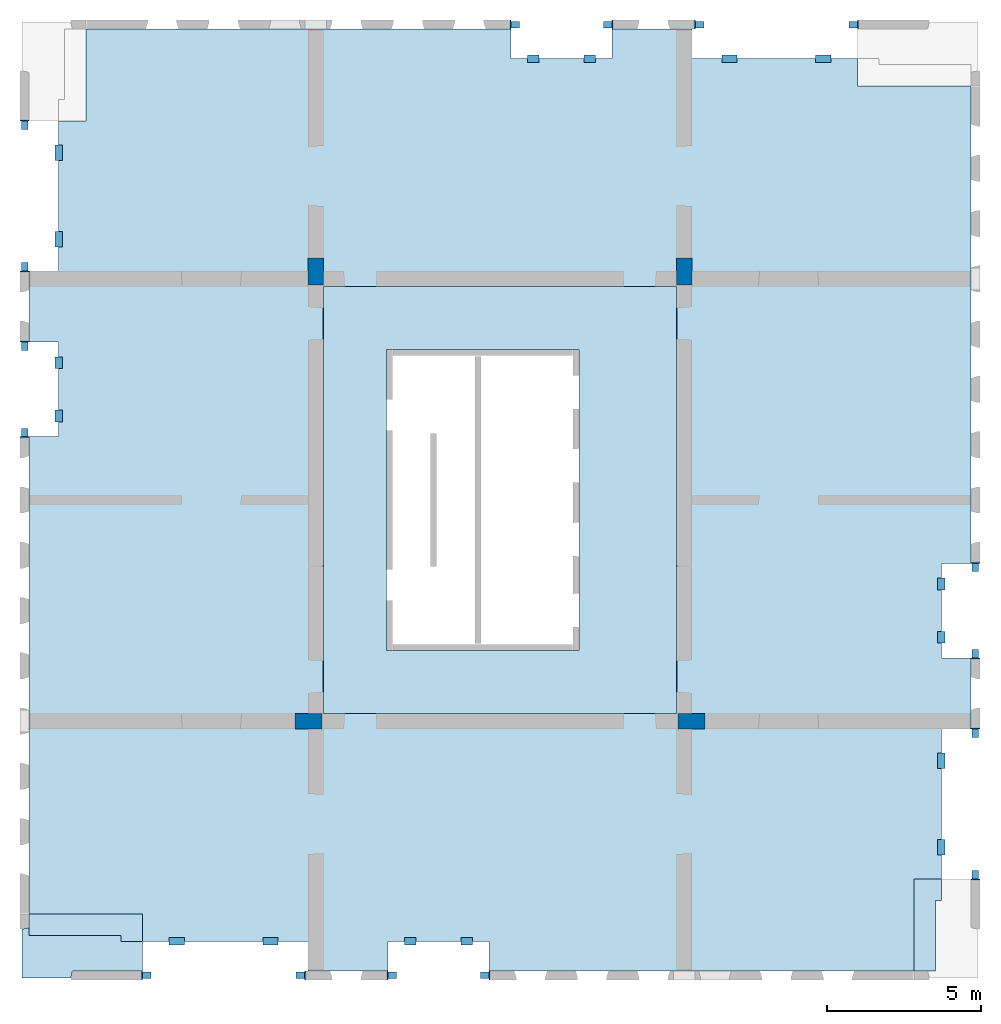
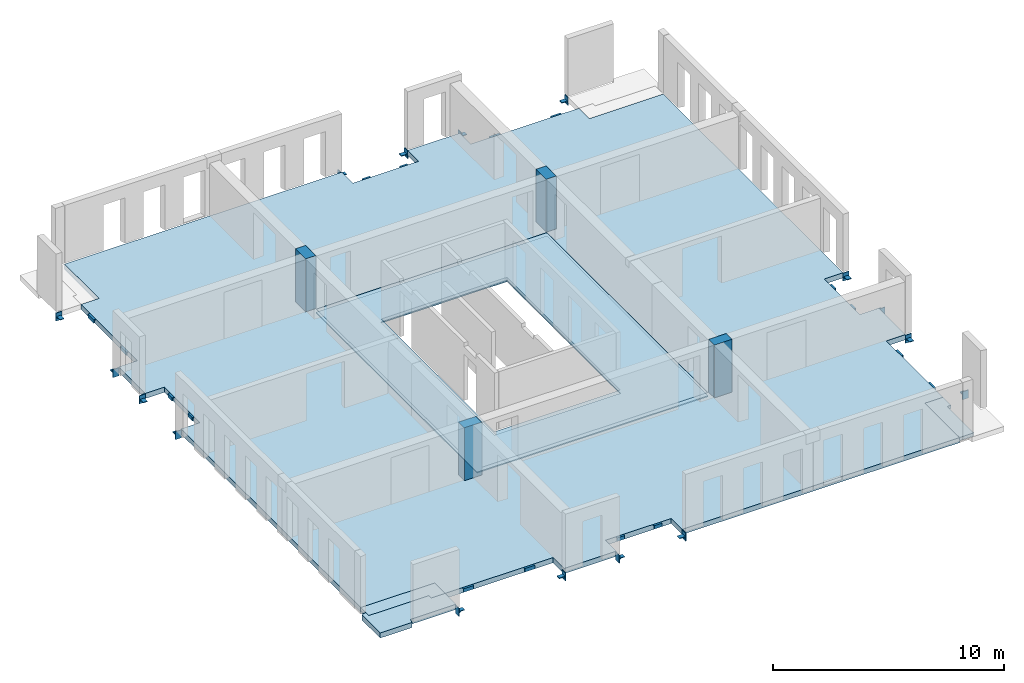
# One storey, part 1 of 4: 32 beams, 6 slabs, 4 columns, 3 openings.
"""IFC2X3 building model written with IfcOpenShell, lengths in millimetres."""

from ifc_helpers import new_model, entity, si_unit, converted_unit, derived_unit, direction, frame, frame_2d, origin, origin_2d_with_axis, place, context, subcontext, project, spatial, polyline, rectangle, outline, extrude, source, transform, mapped, material, layer, layer_set, layer_usage, type_object, type_shapes, element, save


model = new_model("IFC2X3")

# Units and contexts
model_context = context("Model", 3, precision=0.01, world=origin(), true_north=direction((6.12303176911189e-17, 1.0)))
body_context = subcontext(model_context, "Body", "Model", "MODEL_VIEW")
ifc_project = project(units=[si_unit("LENGTHUNIT", "METRE", prefix="MILLI"), si_unit("AREAUNIT", "SQUARE_METRE"), si_unit("VOLUMEUNIT", "CUBIC_METRE"), converted_unit("PLANEANGLEUNIT", "DEGREE", entity("IfcRatioMeasure", 0.0174532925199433), si_unit("PLANEANGLEUNIT", "RADIAN"), dimensions=[0, 0, 0, 0, 0, 0, 0]), si_unit("MASSUNIT", "GRAM", prefix="KILO"), derived_unit("MASSDENSITYUNIT", [(si_unit("MASSUNIT", "GRAM", prefix="KILO"), 1), (si_unit("LENGTHUNIT", "METRE"), -3)]), si_unit("TIMEUNIT", "SECOND"), si_unit("FREQUENCYUNIT", "HERTZ"), si_unit("THERMODYNAMICTEMPERATUREUNIT", "DEGREE_CELSIUS"), derived_unit("THERMALTRANSMITTANCEUNIT", [(si_unit("MASSUNIT", "GRAM", prefix="KILO"), 1), (si_unit("THERMODYNAMICTEMPERATUREUNIT", "KELVIN"), -1), (si_unit("TIMEUNIT", "SECOND"), -3)]), derived_unit("VOLUMETRICFLOWRATEUNIT", [(si_unit("LENGTHUNIT", "METRE"), 3), (si_unit("TIMEUNIT", "SECOND"), -1)]), si_unit("ELECTRICCURRENTUNIT", "AMPERE"), si_unit("ELECTRICVOLTAGEUNIT", "VOLT"), si_unit("POWERUNIT", "WATT"), si_unit("FORCEUNIT", "NEWTON", prefix="KILO"), si_unit("ILLUMINANCEUNIT", "LUX"), si_unit("LUMINOUSFLUXUNIT", "LUMEN"), si_unit("LUMINOUSINTENSITYUNIT", "CANDELA"), derived_unit("USERDEFINED", [(si_unit("MASSUNIT", "GRAM", prefix="KILO"), -1), (si_unit("LENGTHUNIT", "METRE"), -2), (si_unit("TIMEUNIT", "SECOND"), 3), (si_unit("LUMINOUSFLUXUNIT", "LUMEN"), 1)]), derived_unit("LINEARVELOCITYUNIT", [(si_unit("LENGTHUNIT", "METRE"), 1), (si_unit("TIMEUNIT", "SECOND"), -1)]), si_unit("PRESSUREUNIT", "PASCAL"), derived_unit("USERDEFINED", [(si_unit("LENGTHUNIT", "METRE"), -2), (si_unit("MASSUNIT", "GRAM", prefix="KILO"), 1), (si_unit("TIMEUNIT", "SECOND"), -2)])], contexts=[model_context])

# Site, building, storey
site_placement = place(None, origin())
site = spatial("IfcSite", under=ifc_project, at=site_placement, Name="Default", CompositionType="ELEMENT")
building_placement = place(site_placement, origin())
building = spatial("IfcBuilding", under=site, at=building_placement, Name="niet gebruiken", CompositionType="ELEMENT")
storey_placement = place(building_placement, frame((0.0, 0.0, 48600.0)))
storey = spatial("IfcBuildingStorey", under=building, at=storey_placement, Name="15 vijftiende verdieping", CompositionType="ELEMENT", Elevation=48600.0)

# Columns
ifc_material_1 = material(Name="NLRS_f2_beton ihwg")
column_type_1 = type_object("IfcColumnType", Name="500x880", PredefinedType="COLUMN", material=ifc_material_1)
shared_shape_1 = source(origin(), body_context, "Body", "SweptSolid", [
    extrude(rectangle(XDim=880.000000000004, YDim=500.000000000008, at=origin_2d_with_axis()), frame((135750.003540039, 24940.0, 48510.0), z_axis=(0.0, 0.0, 1.0), x_axis=(0.0, -1.0, 0.0)), (0.0, 0.0, 1.0), 2789.99999999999),
])
type_shapes(column_type_1, [shared_shape_1])
column_1_placement = place(storey_placement, frame((0.0, 0.0, -48600.0)))
element("IfcColumn", 1, at=column_1_placement, inside=storey, type_object=column_type_1, material=ifc_material_1, Name="NLRS_28.11_SCO_TLB_beton kolom ihwg_gen:500x880", ObjectType="500x880", context=body_context, shape_type="MappedRepresentation", body=[
    mapped(shared_shape_1, transform((0.0, 0.0, 0.0), scale=1.0)),
])
column_type_2 = type_object("IfcColumnType", Name="500x880", PredefinedType="COLUMN", material=ifc_material_1)
shared_shape_2 = source(origin(), body_context, "Body", "SweptSolid", [
    extrude(rectangle(XDim=879.999999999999, YDim=500.000000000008, at=origin_2d_with_axis()), frame((147750.0, 24940.0, 48510.0), z_axis=(0.0, 0.0, 1.0), x_axis=(0.0, -1.0, 0.0)), (0.0, 0.0, 1.0), 2789.99999999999),
])
type_shapes(column_type_2, [shared_shape_2])
column_2_placement = place(storey_placement, frame((0.0, 0.0, -48600.0)))
element("IfcColumn", 2, at=column_2_placement, inside=storey, type_object=column_type_2, material=ifc_material_1, Name="NLRS_28.11_SCO_TLB_beton kolom ihwg_gen:500x880", ObjectType="500x880", context=body_context, shape_type="MappedRepresentation", body=[
    mapped(shared_shape_2, transform((0.0, 0.0, 0.0), scale=1.0)),
])
column_type_3 = type_object("IfcColumnType", Name="500x880", PredefinedType="COLUMN", material=ifc_material_1)
shared_shape_3 = source(origin(), body_context, "Body", "SweptSolid", [
    extrude(rectangle(XDim=500.000000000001, YDim=880.000000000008, at=origin_2d_with_axis()), frame((135510.003540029, 10300.0115507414, 48510.0), z_axis=(0.0, 0.0, 1.0), x_axis=(0.0, -1.0, 0.0)), (0.0, 0.0, 1.0), 2789.99999999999),
])
type_shapes(column_type_3, [shared_shape_3])
column_3_placement = place(storey_placement, frame((0.0, 0.0, -48600.0)))
element("IfcColumn", 3, at=column_3_placement, inside=storey, type_object=column_type_3, material=ifc_material_1, Name="NLRS_28.11_SCO_TLB_beton kolom ihwg_gen:500x880", ObjectType="500x880", context=body_context, shape_type="MappedRepresentation", body=[
    mapped(shared_shape_3, transform((0.0, 0.0, 0.0), scale=1.0)),
])
column_type_4 = type_object("IfcColumnType", Name="500x880", PredefinedType="COLUMN", material=ifc_material_1)
shared_shape_4 = source(origin(), body_context, "Body", "SweptSolid", [
    extrude(rectangle(XDim=500.000000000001, YDim=880.000000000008, at=origin_2d_with_axis()), frame((147990.0, 10300.0, 48510.0), z_axis=(0.0, 0.0, 1.0), x_axis=(0.0, -1.0, 0.0)), (0.0, 0.0, 1.0), 2789.99999999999),
])
type_shapes(column_type_4, [shared_shape_4])
column_4_placement = place(storey_placement, frame((0.0, 0.0, -48600.0)))
element("IfcColumn", 4, at=column_4_placement, inside=storey, type_object=column_type_4, material=ifc_material_1, Name="NLRS_28.11_SCO_TLB_beton kolom ihwg_gen:500x880", ObjectType="500x880", context=body_context, shape_type="MappedRepresentation", body=[
    mapped(shared_shape_4, transform((0.0, 0.0, 0.0), scale=1.0)),
])

# Beams
ifc_material_2 = material(Name="NLRS_h2_staal")
beam_type_1 = type_object("IfcBeamType", Name="NLRS_28.11_SF_WPB_stalen schoen 4_gen", PredefinedType="BEAM", material=ifc_material_2)
shared_shape_5 = source(origin(), body_context, "Body", "SweptSolid", [
    extrude(outline(polyline([(-69.4999999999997, -23.0), (8.49999999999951, -23.0), (30.5, -1.0), (30.5000000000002, 47.0), (-69.4999999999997, -23.0)])), frame((-105.0, -109.499999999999, -58.0), z_axis=(1.0, 0.0, 0.0), x_axis=(0.0, -1.0, 0.0)), (0.0, 0.0, 1.0), 35.0),
    extrude(outline(polyline([(-69.4999999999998, -23.0), (8.49999999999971, -23.0), (30.5, -1.0), (30.5000000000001, 47.0), (-69.4999999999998, -23.0)])), frame((70.0, -109.499999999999, -58.0), z_axis=(1.0, 0.0, 0.0), x_axis=(0.0, -1.0, 0.0)), (0.0, 0.0, 1.0), 35.0),
    extrude(rectangle(XDim=300.0, YDim=34.9999999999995, at=origin_2d_with_axis()), frame((0.0, -157.5, -230.0), z_axis=(0.0, 0.0, 1.0), x_axis=(-1.0, 0.0, 0.0)), (0.0, 0.0, 1.0), 420.0),
    extrude(rectangle(XDim=210.000000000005, YDim=274.999999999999, at=origin_2d_with_axis()), frame((0.0, -2.4999999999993, -35.0), z_axis=(0.0, 0.0, 1.0), x_axis=(-1.0, 0.0, 0.0)), (0.0, 0.0, 1.0), 35.0),
])
type_shapes(beam_type_1, [shared_shape_5])
beam_1_placement = place(storey_placement, frame((157230.0, 12500.0, -310.0)))
element("IfcBeam", 5, at=beam_1_placement, inside=storey, type_object=beam_type_1, material=ifc_material_2, Name="NLRS_28.11_SF_WPB_stalen schoen 4_gen:NLRS_28.11_SF_WPB_stalen schoen 4_gen", ObjectType="NLRS_28.11_SF_WPB_stalen schoen 4_gen", context=body_context, shape_type="MappedRepresentation", body=[
    mapped(shared_shape_5, transform((0.0, 0.0, 0.0), scale=1.0)),
])
for number, where, z_axis, x_axis, name in (
    (6, (126270.0, 22500.0, -310.0), (0.0, 0.0, 1.0), (-1.0, 0.0, 0.0), "NLRS_28.11_SF_WPB_stalen schoen 4_gen:NLRS_28.11_SF_WPB_stalen schoen 4_gen"),
    (7, (157230.0, 15300.0, -310.0), (0.0, 0.0, 1.0), (-1.0, 0.0, 0.0), "NLRS_28.11_SF_WPB_stalen schoen 4_gen:NLRS_28.11_SF_WPB_stalen schoen 4_gen"),
):
    element("IfcBeam", number, at=place(storey_placement, frame(where, z_axis=z_axis, x_axis=x_axis)), inside=storey, type_object=beam_type_1, material=ifc_material_2, Name=name, ObjectType="NLRS_28.11_SF_WPB_stalen schoen 4_gen", context=body_context, shape_type="MappedRepresentation", body=[
        mapped(shared_shape_5, transform((0.0, 0.0, 0.0), scale=1.0)),
    ])
beam_2_placement = place(storey_placement, frame((126270.0, 19700.0, -310.0)))
element("IfcBeam", 8, at=beam_2_placement, inside=storey, type_object=beam_type_1, material=ifc_material_2, Name="NLRS_28.11_SF_WPB_stalen schoen 4_gen:NLRS_28.11_SF_WPB_stalen schoen 4_gen", ObjectType="NLRS_28.11_SF_WPB_stalen schoen 4_gen", context=body_context, shape_type="MappedRepresentation", body=[
    mapped(shared_shape_5, transform((0.0, 0.0, 0.0), scale=1.0)),
])
for number, where, z_axis, x_axis, name in (
    (9, (138250.0, 2020.0, -310.0), (0.0, 0.0, 1.0), (0.0, -1.0, 0.0), "NLRS_28.11_SF_WPB_stalen schoen 4_gen:NLRS_28.11_SF_WPB_stalen schoen 4_gen"),
    (10, (141250.0, 2020.0, -310.0), (0.0, 0.0, 1.0), (0.0, 1.0, 0.0), "NLRS_28.11_SF_WPB_stalen schoen 4_gen:NLRS_28.11_SF_WPB_stalen schoen 4_gen"),
    (11, (145250.0, 32980.0, -310.0), (0.0, 0.0, 1.0), (0.0, 1.0, 0.0), "NLRS_28.11_SF_WPB_stalen schoen 4_gen:NLRS_28.11_SF_WPB_stalen schoen 4_gen"),
    (12, (142250.0, 32980.0, -310.0), (0.0, 0.0, 1.0), (0.0, -1.0, 0.0), "NLRS_28.11_SF_WPB_stalen schoen 4_gen:NLRS_28.11_SF_WPB_stalen schoen 4_gen"),
):
    element("IfcBeam", number, at=place(storey_placement, frame(where, z_axis=z_axis, x_axis=x_axis)), inside=storey, type_object=beam_type_1, material=ifc_material_2, Name=name, ObjectType="NLRS_28.11_SF_WPB_stalen schoen 4_gen", context=body_context, shape_type="MappedRepresentation", body=[
        mapped(shared_shape_5, transform((0.0, 0.0, 0.0), scale=1.0)),
    ])
beam_type_2 = type_object("IfcBeamType", Name="NLRS_28.11_SF_WPB_stalen schoen 3_gen", PredefinedType="BEAM", material=ifc_material_2)
shared_shape_6 = source(origin(), body_context, "Body", "SweptSolid", [
    extrude(outline(polyline([(-69.4999999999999, -23.0), (8.49999999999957, -23.0), (30.5000000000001, -1.0), (30.5000000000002, 47.0), (-69.4999999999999, -23.0)])), frame((-105.0, -109.499999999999, -63.0), z_axis=(1.0, 0.0, 0.0), x_axis=(0.0, -1.0, 0.0)), (0.0, 0.0, 1.0), 40.0),
    extrude(outline(polyline([(-69.4999999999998, -23.0), (8.49999999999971, -23.0), (30.5, -1.0), (30.5000000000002, 47.0), (-69.4999999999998, -23.0)])), frame((65.0, -109.499999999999, -63.0), z_axis=(1.0, 0.0, 0.0), x_axis=(0.0, -1.0, 0.0)), (0.0, 0.0, 1.0), 40.0),
    extrude(rectangle(XDim=300.0, YDim=39.9999999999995, at=origin_2d_with_axis()), frame((0.0, -160.0, -230.0), z_axis=(0.0, 0.0, 1.0), x_axis=(-1.0, 0.0, 0.0)), (0.0, 0.0, 1.0), 420.0),
    extrude(rectangle(XDim=210.000000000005, YDim=274.999999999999, at=origin_2d_with_axis()), frame((0.0, -2.49999999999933, -40.0), z_axis=(0.0, 0.0, 1.0), x_axis=(-1.0, 0.0, 0.0)), (0.0, 0.0, 1.0), 39.9999999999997),
])
type_shapes(beam_type_2, [shared_shape_6])
beam_3_placement = place(storey_placement, frame((157230.0, 9900.0, -310.0), z_axis=(0.0, 0.0, 1.0), x_axis=(-1.0, 0.0, 0.0)))
element("IfcBeam", 13, at=beam_3_placement, inside=storey, type_object=beam_type_2, material=ifc_material_2, Name="NLRS_28.11_SF_WPB_stalen schoen 3_gen:NLRS_28.11_SF_WPB_stalen schoen 3_gen", ObjectType="NLRS_28.11_SF_WPB_stalen schoen 3_gen", context=body_context, shape_type="MappedRepresentation", body=[
    mapped(shared_shape_6, transform((0.0, 0.0, 0.0), scale=1.0)),
])
for number, where, name in (
    (14, (157230.0, 5300.0, -310.0), "NLRS_28.11_SF_WPB_stalen schoen 3_gen:NLRS_28.11_SF_WPB_stalen schoen 3_gen"),
    (15, (126270.0, 25100.0, -310.0), "NLRS_28.11_SF_WPB_stalen schoen 3_gen:NLRS_28.11_SF_WPB_stalen schoen 3_gen"),
):
    element("IfcBeam", number, at=place(storey_placement, frame(where)), inside=storey, type_object=beam_type_2, material=ifc_material_2, Name=name, ObjectType="NLRS_28.11_SF_WPB_stalen schoen 3_gen", context=body_context, shape_type="MappedRepresentation", body=[
        mapped(shared_shape_6, transform((0.0, 0.0, 0.0), scale=1.0)),
    ])
for number, where, z_axis, x_axis, name in (
    (16, (126270.0, 29700.0, -310.0), (0.0, 0.0, 1.0), (-1.0, 0.0, 0.0), "NLRS_28.11_SF_WPB_stalen schoen 3_gen:NLRS_28.11_SF_WPB_stalen schoen 3_gen"),
    (17, (135250.0, 2020.0, -310.0), (0.0, 0.0, 1.0), (0.0, 1.0, 0.0), "NLRS_28.11_SF_WPB_stalen schoen 3_gen:NLRS_28.11_SF_WPB_stalen schoen 3_gen"),
    (18, (130250.0, 2020.0, -310.0), (0.0, 0.0, 1.0), (0.0, -1.0, 0.0), "NLRS_28.11_SF_WPB_stalen schoen 3_gen:NLRS_28.11_SF_WPB_stalen schoen 3_gen"),
    (19, (148250.0, 32980.0, -310.0), (0.0, 0.0, 1.0), (0.0, -1.0, 0.0), "NLRS_28.11_SF_WPB_stalen schoen 3_gen:NLRS_28.11_SF_WPB_stalen schoen 3_gen"),
    (20, (153250.0, 32980.0, -310.0), (0.0, 0.0, 1.0), (0.0, 1.0, 0.0), "NLRS_28.11_SF_WPB_stalen schoen 3_gen:NLRS_28.11_SF_WPB_stalen schoen 3_gen"),
):
    element("IfcBeam", number, at=place(storey_placement, frame(where, z_axis=z_axis, x_axis=x_axis)), inside=storey, type_object=beam_type_2, material=ifc_material_2, Name=name, ObjectType="NLRS_28.11_SF_WPB_stalen schoen 3_gen", context=body_context, shape_type="MappedRepresentation", body=[
        mapped(shared_shape_6, transform((0.0, 0.0, 0.0), scale=1.0)),
    ])
beam_type_3 = type_object("IfcBeamType", Name="NLRS_28.11_SF_WPB_stalen handje 7 lang 375_gen:NLRS_28.11_SF_WPB_stalen handje 7_gen", PredefinedType="BEAM")
beam_4_placement = place(storey_placement, frame((156235.125015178, 9255.24886461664, -93.0), z_axis=(0.0, 0.0, 1.0), x_axis=(0.0, -1.0, 0.0)))
element("IfcBeam", 21, at=beam_4_placement, inside=storey, type_object=beam_type_3, material=ifc_material_2, Name="NLRS_28.11_SF_WPB_stalen handje 7 lang 375_gen:NLRS_28.11_SF_WPB_stalen handje 7_gen", ObjectType="NLRS_28.11_SF_WPB_stalen handje 7 lang 375_gen:NLRS_28.11_SF_WPB_stalen handje 7_gen", context=body_context, shape_type="SweptSolid", body=[
    extrude(outline(polyline([(-70.6666666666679, -153.33333333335), (-40.6666666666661, -153.33333333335), (-40.6666666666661, 61.6666666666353), (111.333333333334, 61.6666666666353), (111.333333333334, 91.6666666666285), (-70.6666666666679, 91.6666666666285), (-70.6666666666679, -153.33333333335)])), frame((0.0, -91.6666666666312, -70.6666666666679), z_axis=(1.0, 0.0, 0.0), x_axis=(0.0, 0.0, -1.0)), (0.0, 0.0, 1.0), 500.000000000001),
])
beam_5_placement = place(storey_placement, frame((156235.125015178, 6445.2458243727, -93.0), z_axis=(0.0, 0.0, 1.0), x_axis=(0.0, -1.0, 0.0)))
element("IfcBeam", 22, at=beam_5_placement, inside=storey, type_object=beam_type_3, material=ifc_material_2, Name="NLRS_28.11_SF_WPB_stalen handje 7 lang 375_gen:NLRS_28.11_SF_WPB_stalen handje 7_gen", ObjectType="NLRS_28.11_SF_WPB_stalen handje 7 lang 375_gen:NLRS_28.11_SF_WPB_stalen handje 7_gen", context=body_context, shape_type="SweptSolid", body=[
    extrude(outline(polyline([(-70.6666666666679, -153.33333333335), (-40.6666666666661, -153.33333333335), (-40.6666666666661, 61.6666666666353), (111.333333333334, 61.6666666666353), (111.333333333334, 91.6666666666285), (-70.6666666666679, 91.6666666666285), (-70.6666666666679, -153.33333333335)])), frame((0.0, -91.6666666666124, -70.6666666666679), z_axis=(1.0, 0.0, 0.0), x_axis=(0.0, 0.0, -1.0)), (0.0, 0.0, 1.0), 500.000000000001),
])
beam_6_placement = place(storey_placement, frame((127264.874984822, 25744.7511353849, -93.0), z_axis=(0.0, 0.0, 1.0), x_axis=(0.0, 1.0, 0.0)))
element("IfcBeam", 23, at=beam_6_placement, inside=storey, type_object=beam_type_3, material=ifc_material_2, Name="NLRS_28.11_SF_WPB_stalen handje 7 lang 375_gen:NLRS_28.11_SF_WPB_stalen handje 7_gen", ObjectType="NLRS_28.11_SF_WPB_stalen handje 7 lang 375_gen:NLRS_28.11_SF_WPB_stalen handje 7_gen", context=body_context, shape_type="SweptSolid", body=[
    extrude(outline(polyline([(-70.6666666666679, -153.333333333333), (-40.6666666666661, -153.333333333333), (-40.6666666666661, 61.6666666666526), (111.333333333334, 61.6666666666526), (111.333333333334, 91.6666666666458), (-70.6666666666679, 91.6666666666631), (-70.6666666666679, -153.333333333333)])), frame((0.0, -91.6666666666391, -70.6666666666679), z_axis=(1.0, 0.0, 0.0), x_axis=(0.0, 0.0, -1.0)), (0.0, 0.0, 1.0), 500.0),
])
beam_7_placement = place(storey_placement, frame((127264.874984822, 28554.7541756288, -93.0), z_axis=(0.0, 0.0, 1.0), x_axis=(0.0, 1.0, 0.0)))
element("IfcBeam", 24, at=beam_7_placement, inside=storey, type_object=beam_type_3, material=ifc_material_2, Name="NLRS_28.11_SF_WPB_stalen handje 7 lang 375_gen:NLRS_28.11_SF_WPB_stalen handje 7_gen", ObjectType="NLRS_28.11_SF_WPB_stalen handje 7 lang 375_gen:NLRS_28.11_SF_WPB_stalen handje 7_gen", context=body_context, shape_type="SweptSolid", body=[
    extrude(outline(polyline([(-70.6666666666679, -153.333333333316), (-40.6666666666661, -153.333333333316), (-40.6666666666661, 61.66666666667), (111.333333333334, 61.66666666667), (111.333333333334, 91.6666666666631), (-70.6666666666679, 91.6666666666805), (-70.6666666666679, -153.333333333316)])), frame((0.0, -91.6666666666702, -70.6666666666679), z_axis=(1.0, 0.0, 0.0), x_axis=(0.0, 0.0, -1.0)), (0.0, 0.0, 1.0), 500.0),
])
for number, where, z_axis, x_axis, name in (
    (25, (140862.631597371, 3015.23611279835, -93.0), (0.0, 0.0, 1.0), (-1.0, 0.0, 0.0), "NLRS_28.11_SF_WPB_stalen handje 7 lang 375_gen:NLRS_28.11_SF_WPB_stalen handje 7_gen"),
    (26, (139012.628555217, 3015.2361127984, -93.0), (0.0, 0.0, 1.0), (-1.0, 0.0, 0.0), "NLRS_28.11_SF_WPB_stalen handje 7 lang 375_gen:NLRS_28.11_SF_WPB_stalen handje 7_gen"),
):
    element("IfcBeam", number, at=place(storey_placement, frame(where, z_axis=z_axis, x_axis=x_axis)), inside=storey, type_object=beam_type_3, material=ifc_material_2, Name=name, ObjectType="NLRS_28.11_SF_WPB_stalen handje 7 lang 375_gen:NLRS_28.11_SF_WPB_stalen handje 7_gen", context=body_context, shape_type="SweptSolid", body=[
        extrude(outline(polyline([(-70.6666666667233, -153.333333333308), (-40.6666666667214, -153.333333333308), (-40.6666666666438, 61.6666666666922), (111.333333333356, 61.6666666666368), (111.333333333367, 91.6666666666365), (-70.6666666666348, 91.6666666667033), (-70.6666666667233, -153.333333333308)])), frame((0.0, -91.6666666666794, -70.6666666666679), z_axis=(1.0, 0.0, 0.0), x_axis=(0.0, 0.0, -1.0)), (0.0, 0.0, 1.0), 375.000000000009),
    ])
for number, where, z_axis, x_axis, name in (
    (27, (134525.131597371, 3015.23611279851, -93.0), (0.0, 0.0, 1.0), (-1.0, 0.0, 0.0), "NLRS_28.11_SF_WPB_stalen handje 7 lang 375_gen:NLRS_28.11_SF_WPB_stalen handje 7_gen"),
    (28, (131475.128555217, 3015.23611279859, -93.0), (0.0, 0.0, 1.0), (-1.0, 0.0, 0.0), "NLRS_28.11_SF_WPB_stalen handje 7 lang 375_gen:NLRS_28.11_SF_WPB_stalen handje 7_gen"),
):
    element("IfcBeam", number, at=place(storey_placement, frame(where, z_axis=z_axis, x_axis=x_axis)), inside=storey, type_object=beam_type_3, material=ifc_material_2, Name=name, ObjectType="NLRS_28.11_SF_WPB_stalen handje 7 lang 375_gen:NLRS_28.11_SF_WPB_stalen handje 7_gen", context=body_context, shape_type="SweptSolid", body=[
        extrude(outline(polyline([(-70.6666666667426, -153.333333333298), (-40.6666666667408, -153.333333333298), (-40.666666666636, 61.6666666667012), (111.333333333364, 61.6666666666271), (111.333333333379, 91.6666666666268), (-70.6666666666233, 91.666666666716), (-70.6666666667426, -153.333333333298)])), frame((0.0, -91.6666666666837, -70.6666666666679), z_axis=(1.0, 0.0, 0.0), x_axis=(0.0, 0.0, -1.0)), (0.0, 0.0, 1.0), 500.000000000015),
    ])
for number, where, name in (
    (29, (142637.368402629, 31984.7638872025, -93.0), "NLRS_28.11_SF_WPB_stalen handje 7 lang 375_gen:NLRS_28.11_SF_WPB_stalen handje 7_gen"),
    (30, (144487.371444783, 31984.7638872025, -93.0), "NLRS_28.11_SF_WPB_stalen handje 7 lang 375_gen:NLRS_28.11_SF_WPB_stalen handje 7_gen"),
):
    element("IfcBeam", number, at=place(storey_placement, frame(where)), inside=storey, type_object=beam_type_3, material=ifc_material_2, Name=name, ObjectType="NLRS_28.11_SF_WPB_stalen handje 7 lang 375_gen:NLRS_28.11_SF_WPB_stalen handje 7_gen", context=body_context, shape_type="SweptSolid", body=[
        extrude(outline(polyline([(-70.6666666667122, -153.333333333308), (-40.6666666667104, -153.333333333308), (-40.6666666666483, 61.6666666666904), (111.333333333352, 61.6666666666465), (111.33333333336, 91.6666666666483), (-70.6666666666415, 91.6666666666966), (-70.6666666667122, -153.333333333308)])), frame((0.0, -91.6666666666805, -70.6666666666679), z_axis=(1.0, 0.0, 0.0), x_axis=(0.0, 0.0, -1.0)), (0.0, 0.0, 1.0), 375.000000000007),
    ])
beam_8_placement = place(storey_placement, frame((148974.868402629, 31984.7638872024, -93.0)))
element("IfcBeam", 31, at=beam_8_placement, inside=storey, type_object=beam_type_3, material=ifc_material_2, Name="NLRS_28.11_SF_WPB_stalen handje 7 lang 375_gen:NLRS_28.11_SF_WPB_stalen handje 7_gen", ObjectType="NLRS_28.11_SF_WPB_stalen handje 7 lang 375_gen:NLRS_28.11_SF_WPB_stalen handje 7_gen", context=body_context, shape_type="SweptSolid", body=[
    extrude(outline(polyline([(-70.6666666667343, -153.333333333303), (-40.6666666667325, -153.333333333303), (-40.6666666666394, 61.6666666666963), (111.333333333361, 61.6666666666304), (111.333333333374, 91.6666666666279), (-70.6666666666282, 91.6666666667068), (-70.6666666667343, -153.333333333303)])), frame((0.0, -91.6666666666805, -70.6666666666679), z_axis=(1.0, 0.0, 0.0), x_axis=(0.0, 0.0, -1.0)), (0.0, 0.0, 1.0), 500.000000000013),
])
beam_9_placement = place(storey_placement, frame((152024.871444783, 31984.7638872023, -93.0)))
element("IfcBeam", 32, at=beam_9_placement, inside=storey, type_object=beam_type_3, material=ifc_material_2, Name="NLRS_28.11_SF_WPB_stalen handje 7 lang 375_gen:NLRS_28.11_SF_WPB_stalen handje 7_gen", ObjectType="NLRS_28.11_SF_WPB_stalen handje 7 lang 375_gen:NLRS_28.11_SF_WPB_stalen handje 7_gen", context=body_context, shape_type="SweptSolid", body=[
    extrude(outline(polyline([(-70.6666666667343, -153.333333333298), (-40.6666666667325, -153.333333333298), (-40.6666666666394, 61.6666666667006), (111.333333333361, 61.6666666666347), (111.333333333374, 91.6666666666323), (-70.6666666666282, 91.6666666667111), (-70.6666666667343, -153.333333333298)])), frame((0.0, -91.6666666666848, -70.6666666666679), z_axis=(1.0, 0.0, 0.0), x_axis=(0.0, 0.0, -1.0)), (0.0, 0.0, 1.0), 500.000000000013),
])
beam_10_placement = place(storey_placement, frame((156235.0, 14952.5097115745, -93.0), z_axis=(0.0, 0.0, 1.0), x_axis=(0.0, -1.0, 0.0)))
element("IfcBeam", 33, at=beam_10_placement, inside=storey, type_object=beam_type_3, material=ifc_material_2, Name="NLRS_28.11_SF_WPB_stalen handje 7 lang 375_gen:NLRS_28.11_SF_WPB_stalen handje 7_gen", ObjectType="NLRS_28.11_SF_WPB_stalen handje 7 lang 375_gen:NLRS_28.11_SF_WPB_stalen handje 7_gen", context=body_context, shape_type="SweptSolid", body=[
    extrude(outline(polyline([(-70.6666666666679, -153.333333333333), (-40.6666666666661, -153.333333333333), (-40.6666666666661, 61.66666666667), (111.333333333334, 61.66666666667), (111.333333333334, 91.6666666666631), (-70.6666666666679, 91.6666666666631), (-70.6666666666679, -153.333333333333)])), frame((0.0, -91.6666666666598, -70.6666666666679), z_axis=(1.0, 0.0, 0.0), x_axis=(0.0, 0.0, -1.0)), (0.0, 0.0, 1.0), 375.000000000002),
])
beam_11_placement = place(storey_placement, frame((156235.0, 13222.5097115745, -93.0), z_axis=(0.0, 0.0, 1.0), x_axis=(0.0, -1.0, 0.0)))
element("IfcBeam", 34, at=beam_11_placement, inside=storey, type_object=beam_type_3, material=ifc_material_2, Name="NLRS_28.11_SF_WPB_stalen handje 7 lang 375_gen:NLRS_28.11_SF_WPB_stalen handje 7_gen", ObjectType="NLRS_28.11_SF_WPB_stalen handje 7 lang 375_gen:NLRS_28.11_SF_WPB_stalen handje 7_gen", context=body_context, shape_type="SweptSolid", body=[
    extrude(outline(polyline([(-70.6666666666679, -153.333333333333), (-40.6666666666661, -153.333333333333), (-40.6666666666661, 61.66666666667), (111.333333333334, 61.66666666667), (111.333333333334, 91.6666666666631), (-70.6666666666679, 91.6666666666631), (-70.6666666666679, -153.333333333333)])), frame((0.0, -91.6666666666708, -70.6666666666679), z_axis=(1.0, 0.0, 0.0), x_axis=(0.0, 0.0, -1.0)), (0.0, 0.0, 1.0), 375.000000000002),
])
beam_12_placement = place(storey_placement, frame((127265.0, 20047.4902884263, -93.0), z_axis=(0.0, 0.0, 1.0), x_axis=(0.0, 1.0, 0.0)))
element("IfcBeam", 35, at=beam_12_placement, inside=storey, type_object=beam_type_3, material=ifc_material_2, Name="NLRS_28.11_SF_WPB_stalen handje 7 lang 375_gen:NLRS_28.11_SF_WPB_stalen handje 7_gen", ObjectType="NLRS_28.11_SF_WPB_stalen handje 7 lang 375_gen:NLRS_28.11_SF_WPB_stalen handje 7_gen", context=body_context, shape_type="SweptSolid", body=[
    extrude(outline(polyline([(-70.6666666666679, -153.333333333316), (-40.6666666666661, -153.333333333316), (-40.6666666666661, 61.6666666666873), (111.333333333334, 61.66666666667), (111.333333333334, 91.6666666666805), (-70.6666666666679, 91.6666666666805), (-70.6666666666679, -153.333333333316)])), frame((0.0, -91.6666666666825, -70.6666666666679), z_axis=(1.0, 0.0, 0.0), x_axis=(0.0, 0.0, -1.0)), (0.0, 0.0, 1.0), 375.000000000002),
])
beam_13_placement = place(storey_placement, frame((127265.0, 21777.4902884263, -93.0), z_axis=(0.0, 0.0, 1.0), x_axis=(0.0, 1.0, 0.0)))
element("IfcBeam", 36, at=beam_13_placement, inside=storey, type_object=beam_type_3, material=ifc_material_2, Name="NLRS_28.11_SF_WPB_stalen handje 7 lang 375_gen:NLRS_28.11_SF_WPB_stalen handje 7_gen", ObjectType="NLRS_28.11_SF_WPB_stalen handje 7 lang 375_gen:NLRS_28.11_SF_WPB_stalen handje 7_gen", context=body_context, shape_type="SweptSolid", body=[
    extrude(outline(polyline([(-70.6666666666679, -153.33333333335), (-40.6666666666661, -153.33333333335), (-40.6666666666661, 61.6666666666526), (111.333333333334, 61.6666666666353), (111.333333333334, 91.6666666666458), (-70.6666666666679, 91.6666666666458), (-70.6666666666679, -153.33333333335)])), frame((0.0, -91.6666666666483, -70.6666666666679), z_axis=(1.0, 0.0, 0.0), x_axis=(0.0, 0.0, -1.0)), (0.0, 0.0, 1.0), 375.000000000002),
])

# Slabs
ifc_layer_1 = layer(ifc_material_1, 170.0)
ifc_layer_set_1 = layer_set([ifc_layer_1], Name="Floor:NLRS_23.21_FL_beton ihwg d=170_gen")
ifc_layer_usage_1 = layer_usage(ifc_layer_set_1, "AXIS3", "POSITIVE", 0.0)
slab_1_placement = place(storey_placement, origin())
element("IfcSlab", 37, at=slab_1_placement, inside=storey, material=ifc_layer_usage_1, Name="Floor:NLRS_23.21_FL_beton ihwg d=170_gen", ObjectType="Floor:NLRS_23.21_FL_beton ihwg d=170_gen", PredefinedType="FLOOR", context=body_context, shape_type="SweptSolid", body=[
    extrude(outline(polyline([(-1760.0, -533.33333333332), (1230.0, -533.33333333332), (1230.0, 366.666666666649), (530.0, 366.666666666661), (530.0, 166.666666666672), (-1760.0, 166.666666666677), (-1760.0, -533.33333333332)])), frame((155763.333333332, 3930.0, -90.0), z_axis=(0.0, 0.0, -1.0), x_axis=(0.0, 1.0, 0.0)), (0.0, 0.0, 1.0), 169.999999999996),
])
ifc_material_3 = material(Name="NLRS_f2_beton prefab")
ifc_layer_2 = layer(ifc_material_3, 270.0)
ifc_layer_set_2 = layer_set([ifc_layer_2], Name="Floor:NLRS_23.22_FL_beton prefab d=270 3D element_gen")
ifc_layer_usage_2 = layer_usage(ifc_layer_set_2, "AXIS3", "POSITIVE", 0.0)
slab_2_placement = place(storey_placement, origin())
element("IfcSlab", 38, at=slab_2_placement, inside=storey, material=ifc_layer_usage_2, Name="Floor:NLRS_23.22_FL_beton prefab d=270 3D element_gen", ObjectType="Floor:NLRS_23.22_FL_beton prefab d=270 3D element_gen", PredefinedType="LANDING", context=body_context, shape_type="SweptSolid", body=[
    extrude(outline(polyline([(-982.471394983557, -1442.47139498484), (607.67594043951, -1442.47139498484), (655.152429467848, -1209.47139498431), (1100.52860501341, -1209.47139498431), (1100.52860501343, 2480.5286050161), (-749.471394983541, 2480.5286050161), (-749.471394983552, 195.15242946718), (-982.47139498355, 147.675940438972), (-982.471394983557, -1442.47139498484)])), frame((127629.471394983, 2919.47139499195, -90.0), z_axis=(0.0, 0.0, -1.0), x_axis=(0.0, 1.0, 0.0)), (0.0, 0.0, 1.0), 269.999999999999),
])
ifc_layer_usage_3 = layer_usage(ifc_layer_set_1, "AXIS3", "POSITIVE", 0.0)
slab_3_placement = place(storey_placement, origin())
element("IfcSlab", 39, at=slab_3_placement, inside=storey, material=ifc_layer_usage_3, Name="Floor:NLRS_23.21_FL_beton ihwg d=170_gen", ObjectType="Floor:NLRS_23.21_FL_beton ihwg d=170_gen", PredefinedType="FLOOR", context=body_context, shape_type="SweptSolid", body=[
    extrude(outline(polyline([(-166.666666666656, -2226.66666666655), (533.333333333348, -2226.66666666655), (533.333333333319, 1463.33333333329), (-366.666666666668, 1463.33333333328), (-366.666666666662, 763.333333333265), (-166.666666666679, 763.333333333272), (-166.666666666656, -2226.66666666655)])), frame((128646.666666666, 3486.66666667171, -90.0), z_axis=(0.0, 0.0, -1.0), x_axis=(0.0, 1.0, 0.0)), (0.0, 0.0, 1.0), 169.999999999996),
])

# Slab, opening
ifc_layer_3 = layer(ifc_material_1, 230.0)
ifc_layer_set_3 = layer_set([ifc_layer_3], Name="Floor:NLRS_23.21_FL_vloer=230_gen")
ifc_layer_usage_4 = layer_usage(ifc_layer_set_3, "AXIS3", "POSITIVE", 0.0)
slab_4_placement = place(storey_placement, frame((136000.0, 10549.7638872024, -320.0)))
slab_4 = element("IfcSlab", 40, at=slab_4_placement, inside=storey, material=ifc_layer_usage_4, Name="Floor:NLRS_23.21_FL_vloer=230_gen", ObjectType="Floor:NLRS_23.21_FL_vloer=230_gen", PredefinedType="FLOOR", context=body_context, shape_type="SweptSolid", body=[
    extrude(rectangle(XDim=13900.2361127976, YDim=11500.0, at=frame_2d((0.0, 0.0), x_axis=(0.0, -1.0))), frame((5750.0, 6950.11805639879, 230.0), z_axis=(0.0, 0.0, -1.0), x_axis=(-1.0, 0.0, 0.0)), (0.0, 0.0, 1.0), 230.0),
])
opening_1_placement = place(slab_4_placement, frame((5190.0, 6950.23611279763, 230.0)))
element("IfcOpeningElement", 41, at=opening_1_placement, cuts=slab_4, Name="Floor:NLRS_23.21_FL_vloer=230_gen:2", ObjectType="Opening", context=body_context, shape_type="SweptSolid", body=[
    extrude(rectangle(XDim=9800.0, YDim=6279.99999999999, at=origin_2d_with_axis()), frame((0.0, 0.0, 0.0), z_axis=(0.0, 0.0, -1.0), x_axis=(0.0, -1.0, 0.0)), (0.0, 0.0, 1.0), 230.0),
])

ifc_layer_4 = layer(ifc_material_1, 170.0)
ifc_layer_5 = layer(ifc_material_3, 100.0)
ifc_layer_set_4 = layer_set([ifc_layer_4, ifc_layer_5], Name="Floor:NLRS_23.21_FL_breedplaat d=100/270_gen")
ifc_layer_usage_5 = layer_usage(ifc_layer_set_4, "AXIS3", "POSITIVE", 0.0)
slab_5_placement = place(storey_placement, frame((126419.874984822, 2169.76388720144, -360.0)))
slab_5 = element("IfcSlab", 42, at=slab_5_placement, inside=storey, material=ifc_layer_usage_5, Name="Floor:NLRS_23.21_FL_breedplaat d=100/270_gen", ObjectType="Floor:NLRS_23.21_FL_breedplaat d=100/270_gen", PredefinedType="FLOOR", context=body_context, shape_type="SweptSolid", body=[
    extrude(outline(polyline([(-360.0, 15330.0), (-360.0, 14380.0), (-3640.0, 14380.0), (-3640.0, 15330.0), (-6250.0, 15330.0), (-6250.0, 14380.0), (-11640.0, 14380.0), (-11640.0, 13480.0), (-15330.0, 13480.0), (-15330.0, -2060.0), (-14380.0, -2060.0), (-14380.0, -5140.0), (-15330.0, -5140.0), (-15330.0, -7450.0), (-14380.0, -7450.0), (-14380.0, -12340.0), (-13480.0, -12340.0), (-13480.0, -15330.0), (360.0, -15330.0), (360.0, -14380.0), (3640.0, -14380.0), (3640.0, -15330.0), (6250.0, -15330.0), (6250.0, -14380.0), (11640.0, -14380.0), (11640.0, -13480.0), (15330.0, -13480.0), (15330.0, 2060.0), (14380.0, 2060.0), (14380.0, 5140.0), (15330.0, 5140.0), (15330.0, 7450.0), (14380.0, 7450.0), (14380.0, 12340.0), (13480.0, 12340.0), (13480.0, 15330.0), (-360.0, 15330.0)])), frame((15330.0, 15330.0, 270.0), z_axis=(0.0, 0.0, -1.0), x_axis=(-1.0, 0.0, 0.0)), (0.0, 0.0, 1.0), 269.999999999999),
])
opening_2_placement = place(slab_5_placement, frame((15330.0, 15330.0, 270.0)))
element("IfcOpeningElement", 43, at=opening_2_placement, cuts=slab_5, Name="Floor:NLRS_23.21_FL_breedplaat d=100/270_gen:2", ObjectType="Opening", context=body_context, shape_type="SweptSolid", body=[
    extrude(rectangle(XDim=13900.0, YDim=11500.0, at=origin_2d_with_axis()), frame((0.0, 0.0, 0.0), z_axis=(0.0, 0.0, -1.0), x_axis=(0.0, -1.0, 0.0)), (0.0, 0.0, 1.0), 269.999999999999),
])

ifc_layer_6 = layer(ifc_material_3, 60.0)
ifc_layer_set_5 = layer_set([ifc_layer_6], Name="Floor:NLRS_23.21_FL_breedplaat d=60_gen")
ifc_layer_usage_6 = layer_usage(ifc_layer_set_5, "AXIS3", "POSITIVE", 0.0)
slab_6_placement = place(storey_placement, frame((135990.0, 10540.0, -320.0)))
slab_6 = element("IfcSlab", 44, at=slab_6_placement, inside=storey, material=ifc_layer_usage_6, Name="Floor:NLRS_23.21_FL_breedplaat d=60_gen", ObjectType="Floor:NLRS_23.21_FL_breedplaat d=60_gen", PredefinedType="FLOOR", context=body_context, shape_type="SweptSolid", body=[
    extrude(rectangle(XDim=13919.9999999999, YDim=11520.0, at=frame_2d((0.0, 0.0), x_axis=(0.0, -1.0))), frame((5760.0, 6960.0, 60.0), z_axis=(0.0, 0.0, -1.0), x_axis=(-1.0, 0.0, 0.0)), (0.0, 0.0, 1.0), 60.0000000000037),
])
opening_3_placement = place(slab_6_placement, frame((5200.0, 6960.0, 60.0)))
element("IfcOpeningElement", 45, at=opening_3_placement, cuts=slab_6, Name="Floor:NLRS_23.21_FL_breedplaat d=60_gen:2", ObjectType="Opening", context=body_context, shape_type="SweptSolid", body=[
    extrude(rectangle(XDim=9820.0, YDim=6299.99999999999, at=origin_2d_with_axis()), frame((0.0, 0.0, 0.0), z_axis=(0.0, 0.0, -1.0), x_axis=(0.0, -1.0, 0.0)), (0.0, 0.0, 1.0), 60.0000000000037),
])

save(model, "model.ifc")
